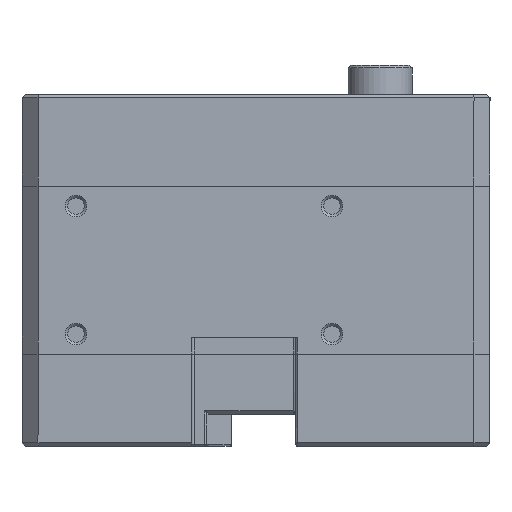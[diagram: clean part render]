
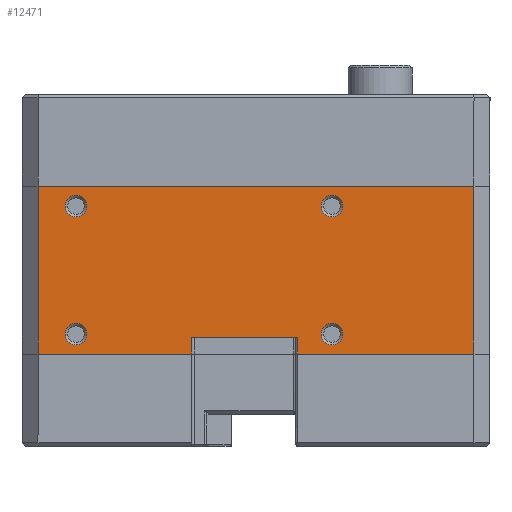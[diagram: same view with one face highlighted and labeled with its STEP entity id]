
A CAD part, top view. The second image highlights one B-rep face of the part: STEP entity #12471.
In plain terms, the highlighted planar face has unit normal (0, 0, 1) as drawn and (1, 0, 0) by its records, which use the part's own axes.
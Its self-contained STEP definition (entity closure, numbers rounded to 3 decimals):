
#1268=LINE('',#21757,#2195);
#1272=LINE('',#21771,#2199);
#1298=LINE('',#21858,#2225);
#1300=LINE('',#21862,#2227);
#1301=LINE('',#21864,#2228);
#1302=LINE('',#21865,#2229);
#1303=LINE('',#21867,#2230);
#1304=LINE('',#21868,#2231);
#2195=VECTOR('',#16992,22.05);
#2199=VECTOR('',#17002,19.25);
#2225=VECTOR('',#17084,21.);
#2227=VECTOR('',#17088,2.1);
#2228=VECTOR('',#17089,13.2);
#2229=VECTOR('',#17090,2.1);
#2230=VECTOR('',#17091,21.);
#2231=VECTOR('',#17092,54.5);
#2590=PLANE('',#13742);
#3014=FACE_BOUND('',#4744,.T.);
#3015=FACE_BOUND('',#4745,.T.);
#3016=FACE_BOUND('',#4746,.T.);
#3017=FACE_BOUND('',#4747,.T.);
#3699=FACE_OUTER_BOUND('',#4743,.T.);
#4743=EDGE_LOOP('',(#11318,#11319,#11320,#11321,#11322,#11323,#11324,#11325));
#4744=EDGE_LOOP('',(#11326));
#4745=EDGE_LOOP('',(#11327));
#4746=EDGE_LOOP('',(#11328));
#4747=EDGE_LOOP('',(#11329));
#5382=CIRCLE('',#13743,1.35);
#5383=CIRCLE('',#13744,1.35);
#5384=CIRCLE('',#13745,1.35);
#5385=CIRCLE('',#13746,1.35);
#6510=VERTEX_POINT('',#21754);
#6511=VERTEX_POINT('',#21756);
#6517=VERTEX_POINT('',#21768);
#6518=VERTEX_POINT('',#21770);
#6551=VERTEX_POINT('',#21857);
#6552=VERTEX_POINT('',#21861);
#6553=VERTEX_POINT('',#21863);
#6554=VERTEX_POINT('',#21866);
#6555=VERTEX_POINT('',#21869);
#6556=VERTEX_POINT('',#21871);
#6557=VERTEX_POINT('',#21873);
#6558=VERTEX_POINT('',#21875);
#8138=EDGE_CURVE('',#6511,#6510,#1268,.T.);
#8145=EDGE_CURVE('',#6518,#6517,#1272,.T.);
#8189=EDGE_CURVE('',#6551,#6518,#1298,.T.);
#8191=EDGE_CURVE('',#6517,#6552,#1300,.T.);
#8192=EDGE_CURVE('',#6552,#6553,#1301,.T.);
#8193=EDGE_CURVE('',#6511,#6553,#1302,.T.);
#8194=EDGE_CURVE('',#6554,#6510,#1303,.T.);
#8195=EDGE_CURVE('',#6554,#6551,#1304,.T.);
#8196=EDGE_CURVE('',#6555,#6555,#5382,.T.);
#8197=EDGE_CURVE('',#6556,#6556,#5383,.T.);
#8198=EDGE_CURVE('',#6557,#6557,#5384,.T.);
#8199=EDGE_CURVE('',#6558,#6558,#5385,.T.);
#11318=ORIENTED_EDGE('',*,*,#8145,.T.);
#11319=ORIENTED_EDGE('',*,*,#8191,.T.);
#11320=ORIENTED_EDGE('',*,*,#8192,.T.);
#11321=ORIENTED_EDGE('',*,*,#8193,.F.);
#11322=ORIENTED_EDGE('',*,*,#8138,.T.);
#11323=ORIENTED_EDGE('',*,*,#8194,.F.);
#11324=ORIENTED_EDGE('',*,*,#8195,.T.);
#11325=ORIENTED_EDGE('',*,*,#8189,.T.);
#11326=ORIENTED_EDGE('',*,*,#8196,.F.);
#11327=ORIENTED_EDGE('',*,*,#8197,.F.);
#11328=ORIENTED_EDGE('',*,*,#8198,.F.);
#11329=ORIENTED_EDGE('',*,*,#8199,.F.);
#12471=ADVANCED_FACE('',(#3699,#3014,#3015,#3016,#3017),#2590,.T.);
#13742=AXIS2_PLACEMENT_3D('',#21860,#17086,#17087);
#13743=AXIS2_PLACEMENT_3D('',#21870,#17093,#17094);
#13744=AXIS2_PLACEMENT_3D('',#21872,#17095,#17096);
#13745=AXIS2_PLACEMENT_3D('',#21874,#17097,#17098);
#13746=AXIS2_PLACEMENT_3D('',#21876,#17099,#17100);
#16992=DIRECTION('',(0.,1.,0.));
#17002=DIRECTION('',(0.,1.,0.));
#17084=DIRECTION('',(0.,0.,-1.));
#17086=DIRECTION('center_axis',(1.,0.,0.));
#17087=DIRECTION('ref_axis',(0.,1.,0.));
#17088=DIRECTION('',(0.,0.,1.));
#17089=DIRECTION('',(0.,1.,0.));
#17090=DIRECTION('',(0.,0.,1.));
#17091=DIRECTION('',(0.,0.,-1.));
#17092=DIRECTION('',(0.,-1.,0.));
#17093=DIRECTION('center_axis',(1.,0.,0.));
#17094=DIRECTION('ref_axis',(0.,-1.,0.));
#17095=DIRECTION('center_axis',(1.,0.,0.));
#17096=DIRECTION('ref_axis',(0.,-1.,0.));
#17097=DIRECTION('center_axis',(1.,0.,0.));
#17098=DIRECTION('ref_axis',(0.,-1.,0.));
#17099=DIRECTION('center_axis',(1.,0.,0.));
#17100=DIRECTION('ref_axis',(0.,-1.,0.));
#21754=CARTESIAN_POINT('',(16.75,11.75,-10.5));
#21756=CARTESIAN_POINT('',(16.75,-10.3,-10.5));
#21757=CARTESIAN_POINT('',(16.75,-22.375,-10.5));
#21768=CARTESIAN_POINT('',(16.75,-23.5,-10.5));
#21770=CARTESIAN_POINT('',(16.75,-42.75,-10.5));
#21771=CARTESIAN_POINT('',(16.75,-22.375,-10.5));
#21857=CARTESIAN_POINT('',(16.75,-42.75,10.5));
#21858=CARTESIAN_POINT('',(16.75,-42.75,21.6));
#21860=CARTESIAN_POINT('Origin',(16.75,-44.75,-22.));
#21861=CARTESIAN_POINT('',(16.75,-23.5,-8.4));
#21862=CARTESIAN_POINT('',(16.75,-23.5,-21.6));
#21863=CARTESIAN_POINT('',(16.75,-10.3,-8.4));
#21864=CARTESIAN_POINT('',(16.75,-23.5,-8.4));
#21865=CARTESIAN_POINT('',(16.75,-10.3,-21.6));
#21866=CARTESIAN_POINT('',(16.75,11.75,10.5));
#21867=CARTESIAN_POINT('',(16.75,11.75,21.6));
#21868=CARTESIAN_POINT('',(16.75,-22.375,10.5));
#21869=CARTESIAN_POINT('',(16.75,-7.35,-8.));
#21870=CARTESIAN_POINT('Origin',(16.75,-6.,-8.));
#21871=CARTESIAN_POINT('',(16.75,-36.65,8.));
#21872=CARTESIAN_POINT('Origin',(16.75,-38.,8.));
#21873=CARTESIAN_POINT('',(16.75,-36.65,-8.));
#21874=CARTESIAN_POINT('Origin',(16.75,-38.,-8.));
#21875=CARTESIAN_POINT('',(16.75,-4.65,8.));
#21876=CARTESIAN_POINT('Origin',(16.75,-6.,8.));
